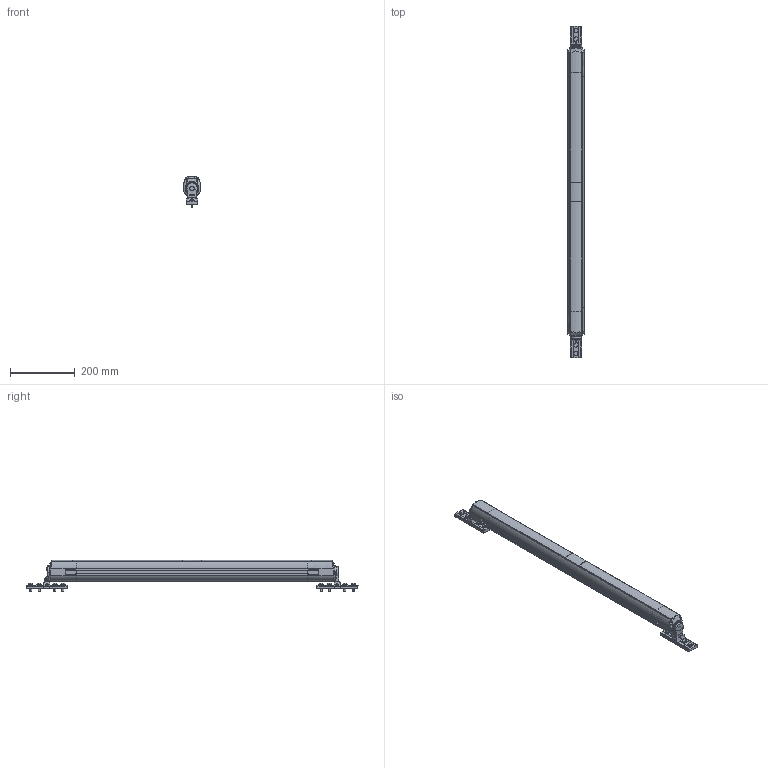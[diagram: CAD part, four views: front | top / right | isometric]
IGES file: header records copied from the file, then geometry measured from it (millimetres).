
Global section: file name: No Iges File Name specified; native system: Autodesk Inventor 2009; preprocessor: AutoDesk Inventor Iges Exporter R2009; author: seisen; date: 20110520.100255; units: millimetre
Bounding box: 52 x 1028.9 x 97.3 mm (x, y, z)
Volume: 2192530.8 mm3; surface area: 366493.1 mm2
Topology: 14 solids, 19 shells, 1392 faces, 3839 edges, 2484 vertices
Faces by surface type: plane 590, bspline 267, cylinder 207, revolution 183, cone 92, torus 38, sphere 15
